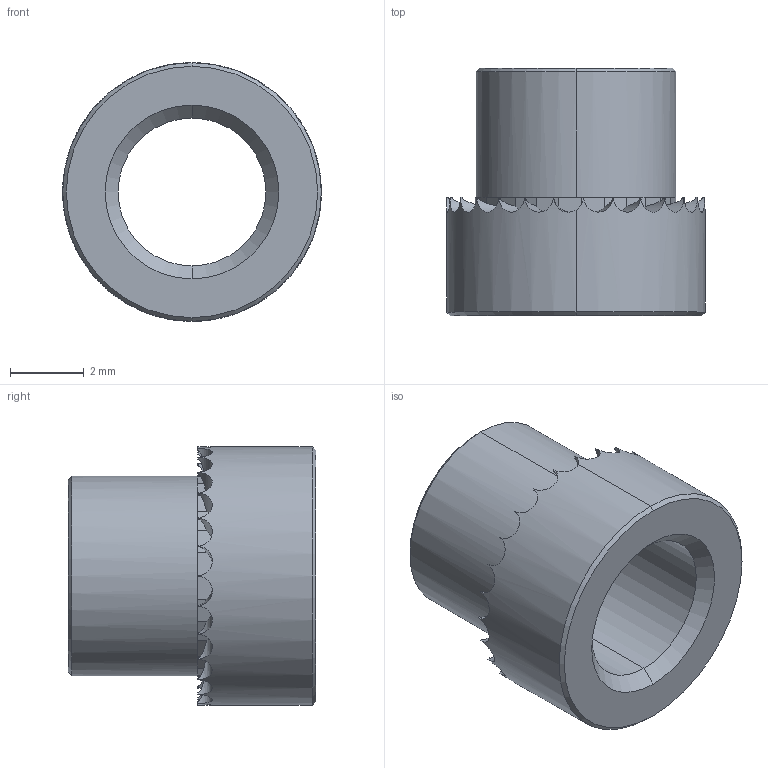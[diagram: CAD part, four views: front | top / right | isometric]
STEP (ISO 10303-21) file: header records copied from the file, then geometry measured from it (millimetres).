
FILE_DESCRIPTION (( 'STEP AP203' ), '1' );
FILE_NAME ('P0829.040-10G-ZP.step', '2019-03-21T22:15:56', ( '' ), ( '' ), 'SwSTEP 2.0', 'SolidWorks 2017', '' );
FILE_SCHEMA (( 'CONFIG_CONTROL_DESIGN' ));
Length unit declared in the file: millimetre
Products named in the file (1): P0829.040-10G-ZP
Bounding box: 7 x 6.7 x 7 mm (x, y, z)
Volume: 112.5 mm3; surface area: 262.4 mm2
Topology: 1 solids, 1 shells, 124 faces, 304 edges, 182 vertices
Faces by surface type: plane 83, cylinder 33, cone 8
Entity records: 3865 total; most frequent: CARTESIAN_POINT 943, ORIENTED_EDGE 608, DIRECTION 597, EDGE_CURVE 304, AXIS2_PLACEMENT_3D 224, VERTEX_POINT 182, VECTOR 149, LINE 149
